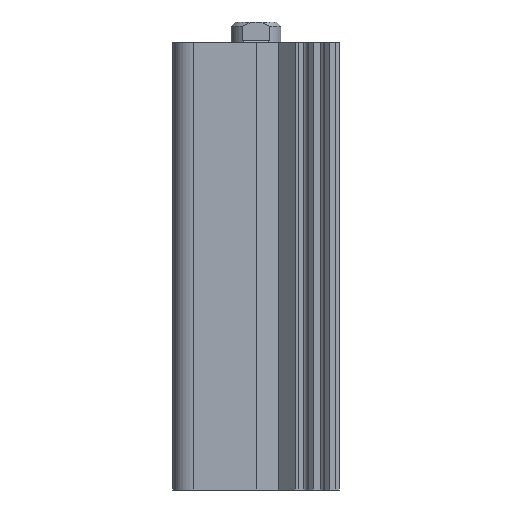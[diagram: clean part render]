
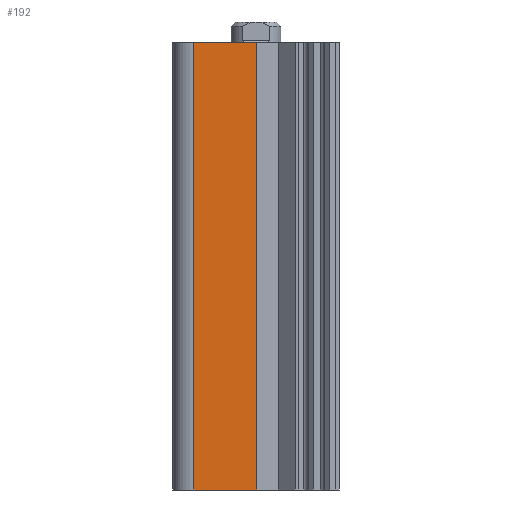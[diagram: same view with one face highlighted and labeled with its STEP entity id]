
A CAD part, left-side view. The second image highlights one B-rep face of the part: STEP entity #192.
In plain terms, the highlighted planar face has unit normal (-1, 0, 0).
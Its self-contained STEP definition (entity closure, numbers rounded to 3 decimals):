
#192 = ADVANCED_FACE( '', ( #436 ), #437, .T. );
#436 = FACE_OUTER_BOUND( '', #773, .T. );
#437 = PLANE( '', #774 );
#773 = EDGE_LOOP( '', ( #1167, #1168, #1169, #1170 ) );
#774 = AXIS2_PLACEMENT_3D( '', #1171, #1172, #1173 );
#1167 = ORIENTED_EDGE( '', *, *, #1786, .F. );
#1168 = ORIENTED_EDGE( '', *, *, #1787, .F. );
#1169 = ORIENTED_EDGE( '', *, *, #1788, .T. );
#1170 = ORIENTED_EDGE( '', *, *, #1752, .T. );
#1171 = CARTESIAN_POINT( '', ( -20., 15., -107.5 ) );
#1172 = DIRECTION( '', ( -1., 0., 0. ) );
#1173 = DIRECTION( '', ( 0., 0., 1. ) );
#1752 = EDGE_CURVE( '', #2028, #2025, #2029, .T. );
#1786 = EDGE_CURVE( '', #2082, #2025, #2083, .T. );
#1787 = EDGE_CURVE( '', #2084, #2082, #2085, .T. );
#1788 = EDGE_CURVE( '', #2084, #2028, #2086, .T. );
#2025 = VERTEX_POINT( '', #2422 );
#2028 = VERTEX_POINT( '', #2426 );
#2029 = LINE( '', #2427, #2428 );
#2082 = VERTEX_POINT( '', #2512 );
#2083 = LINE( '', #2513, #2514 );
#2084 = VERTEX_POINT( '', #2515 );
#2085 = LINE( '', #2516, #2517 );
#2086 = LINE( '', #2518, #2519 );
#2422 = CARTESIAN_POINT( '', ( -20., -0.223, 0. ) );
#2426 = CARTESIAN_POINT( '', ( -20., -0.223, -107.5 ) );
#2427 = CARTESIAN_POINT( '', ( -20., -0.223, -107.5 ) );
#2428 = VECTOR( '', #2883, 1000. );
#2512 = CARTESIAN_POINT( '', ( -20., 15., 0. ) );
#2513 = CARTESIAN_POINT( '', ( -20., 15., 0. ) );
#2514 = VECTOR( '', #2924, 1000. );
#2515 = CARTESIAN_POINT( '', ( -20., 15., -107.5 ) );
#2516 = CARTESIAN_POINT( '', ( -20., 15., -107.5 ) );
#2517 = VECTOR( '', #2925, 1000. );
#2518 = CARTESIAN_POINT( '', ( -20., 15., -107.5 ) );
#2519 = VECTOR( '', #2926, 1000. );
#2883 = DIRECTION( '', ( 0., 0., 1. ) );
#2924 = DIRECTION( '', ( 0., -1., 0. ) );
#2925 = DIRECTION( '', ( 0., 0., 1. ) );
#2926 = DIRECTION( '', ( 0., -1., 0. ) );
